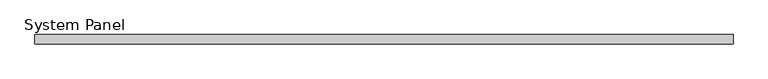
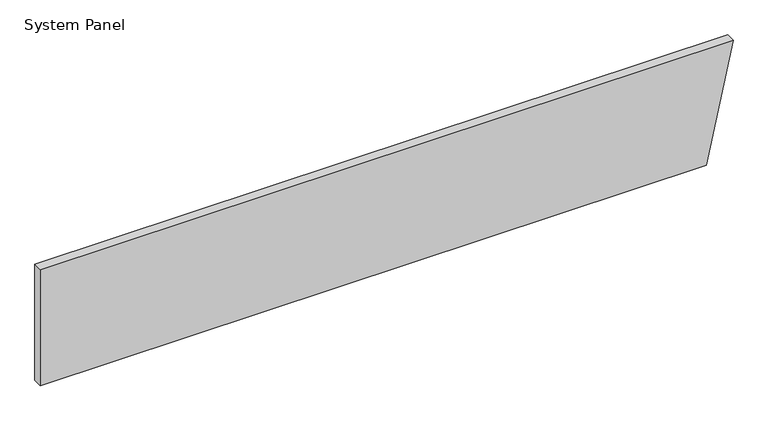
"""IFC4 building model written with IfcOpenShell, lengths in millimetres: plate geometry, System Panel : InsulWall_90mm_Plain_Surfmist."""

from ifc_helpers import new_model, si_unit, frame, origin, place, context, project, spatial, polyline, outline, extrude, source, transform, mapped, element, save


def system_panel_1a5ce206(model_context):
    return source(origin(), model_context, "Body", "SweptSolid", [
        extrude(outline(polyline([(0.0, -3386.3074928), (0.0, 3125.4358309), (1200.0, 3386.3074928), (1200.0, -3386.3074928), (0.0, -3386.3074928)])), frame((0.0, -90.0, 0.0), z_axis=(0.0, 1.0, 0.0), x_axis=(0.0, 0.0, 1.0)), (0.0, 0.0, 1.0), 90.0),
    ])


if __name__ == "__main__":
    model = new_model("IFC4")
    model_context = context("Model", 3, world=origin())
    ifc_project = project(units=[si_unit("LENGTHUNIT", "METRE", prefix="MILLI")], contexts=[model_context])
    site = spatial("IfcSite", under=ifc_project)
    building = spatial("IfcBuilding", under=site)
    placement = place(None, origin())
    system_panel_shape = system_panel_1a5ce206(model_context)
    element("IfcPlate", 1, ObjectType="System Panel : InsulWall_90mm_Plain_Surfmist", at=placement, inside=building, context=model_context, shape_type="MappedRepresentation", body=[
        mapped(system_panel_shape, transform((0.0, 0.0, 0.0), x_axis=(1.0, 0.0, 0.0), y_axis=(0.0, 1.0, 0.0), z_axis=(0.0, 0.0, 1.0))),
    ])
    save(model, "model.ifc")
